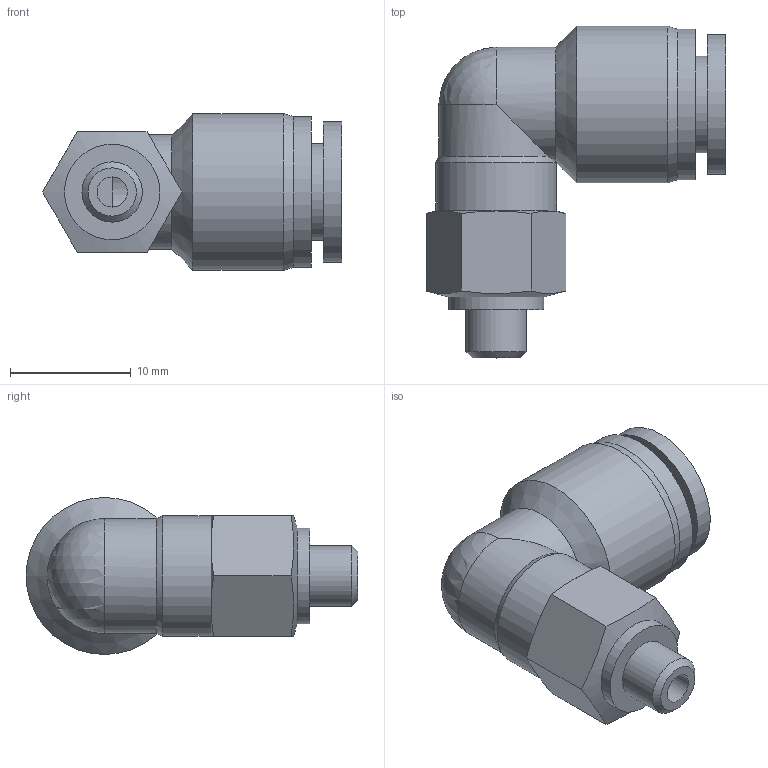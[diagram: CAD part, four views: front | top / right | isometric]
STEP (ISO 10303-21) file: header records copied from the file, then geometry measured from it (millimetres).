
FILE_DESCRIPTION(/* description */ (''),/* implementation_level */ '2;1');
FILE_NAME(/* name */ 'S:\UTecnico\ArchivioUT\Speciali Clienti\Speciali KONFIT\DISEGNI 3D\RP\RP 72\RP72M506.stp',/* time_stamp */ '2013-06-28T14:17:40+02:00',/* author */ ('UT5'),/* organization */ (''),/* preprocessor_version */ 'ST-DEVELOPER v15.2',/* originating_system */ 'Autodesk Inventor 2014',/* authorisation */ '');
FILE_SCHEMA (('AUTOMOTIVE_DESIGN { 1 0 10303 214 3 1 1 }'));
Length unit declared in the file: millimetre
Products named in the file (1): RP72M506
Bounding box: 24.77 x 27.5 x 13 mm (x, y, z)
Volume: 2746.6 mm3; surface area: 2112.8 mm2
Topology: 1 solids, 1 shells, 36 faces, 81 edges, 48 vertices
Faces by surface type: plane 13, cylinder 11, cone 11, sphere 1
Full cylindrical faces by diameter (mm): 2.5 x1, 5 x1, 6 x1, 7.9 x1, 8 x1, 10 x1, 11.6 x1, 12.5 x1, 13 x1
Entity records: 938 total; most frequent: CARTESIAN_POINT 218, DIRECTION 143, ORIENTED_EDGE 122, AXIS2_PLACEMENT_3D 67, EDGE_CURVE 61, EDGE_LOOP 55, VERTEX_POINT 44, ADVANCED_FACE 36
